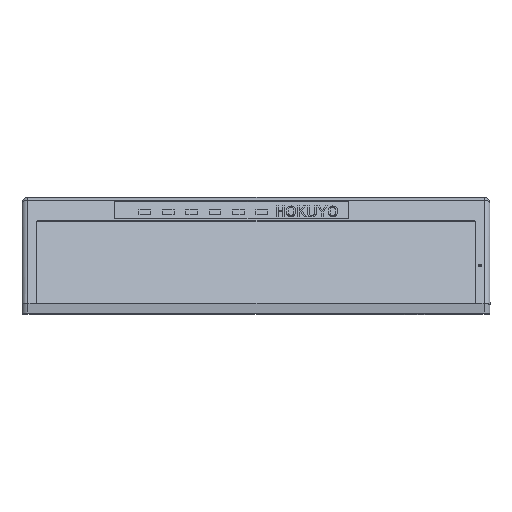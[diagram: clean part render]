
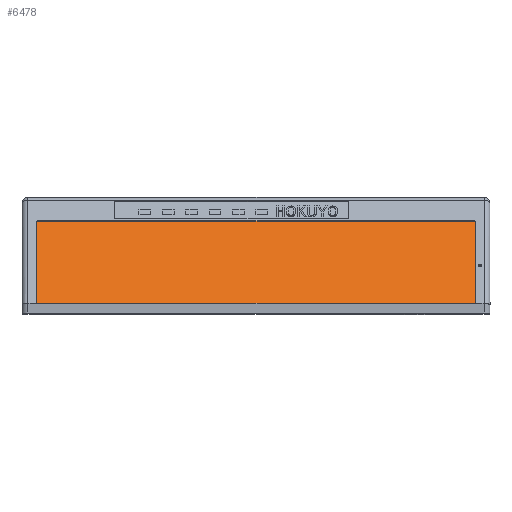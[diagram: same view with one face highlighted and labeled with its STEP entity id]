
A CAD part, top view. The second image highlights one B-rep face of the part: STEP entity #6478.
In plain terms, the highlighted planar face has unit normal (0, 0.5, 0.866).
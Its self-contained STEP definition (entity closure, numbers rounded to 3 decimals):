
#313 = CARTESIAN_POINT ( 'NONE',  ( 37.5, 15.743, 31.863 ) ) ;
#724 = CARTESIAN_POINT ( 'NONE',  ( 37.3, 1.973, 39.813 ) ) ;
#1880 = DIRECTION ( 'NONE',  ( 1., 0., 0. ) ) ;
#2249 = CARTESIAN_POINT ( 'NONE',  ( -37.3, 1.8, 39.913 ) ) ;
#2458 = DIRECTION ( 'NONE',  ( 0., 0.5, 0.866 ) ) ;
#2619 = AXIS2_PLACEMENT_3D ( 'NONE', #29397, #16883, #26687 ) ;
#4171 = DIRECTION ( 'NONE',  ( 0., -0.866, 0.5 ) ) ;
#5381 = CARTESIAN_POINT ( 'NONE',  ( 37.3, 1.8, 39.913 ) ) ;
#5697 = EDGE_CURVE ( 'NONE', #28206, #11695, #13425, .T. ) ;
#6099 = DIRECTION ( 'NONE',  ( 1., 0., 0. ) ) ;
#6478 = ADVANCED_FACE ( 'NONE', ( #29253 ), #12549, .T. ) ;
#6565 = LINE ( 'NONE', #28511, #22481 ) ;
#6954 = EDGE_CURVE ( 'NONE', #11695, #14221, #6565, .T. ) ;
#7120 = CIRCLE ( 'NONE', #11213, 0.2 ) ;
#7998 = DIRECTION ( 'NONE',  ( 0., 0.866, -0.5 ) ) ;
#8019 = LINE ( 'NONE', #17763, #9466 ) ;
#8708 = CARTESIAN_POINT ( 'NONE',  ( 37.3, 15.916, 31.763 ) ) ;
#8756 = VERTEX_POINT ( 'NONE', #2249 ) ;
#9466 = VECTOR ( 'NONE', #27560, 1000. ) ;
#10139 = EDGE_LOOP ( 'NONE', ( #11477, #30559, #24136, #15371, #15219, #21168, #23757, #25622 ) ) ;
#10175 = EDGE_CURVE ( 'NONE', #14221, #8756, #16409, .T. ) ;
#11213 = AXIS2_PLACEMENT_3D ( 'NONE', #24356, #26934, #20019 ) ;
#11477 = ORIENTED_EDGE ( 'NONE', *, *, #29126, .T. ) ;
#11695 = VERTEX_POINT ( 'NONE', #19225 ) ;
#12549 = PLANE ( 'NONE',  #2619 ) ;
#13048 = DIRECTION ( 'NONE',  ( 0., 0.5, 0.866 ) ) ;
#13201 = DIRECTION ( 'NONE',  ( 1., 0., 0. ) ) ;
#13217 = VERTEX_POINT ( 'NONE', #313 ) ;
#13320 = VECTOR ( 'NONE', #7998, 1000. ) ;
#13425 = CIRCLE ( 'NONE', #28271, 0.2 ) ;
#14074 = EDGE_CURVE ( 'NONE', #13217, #29654, #7120, .T. ) ;
#14221 = VERTEX_POINT ( 'NONE', #17940 ) ;
#15219 = ORIENTED_EDGE ( 'NONE', *, *, #22017, .T. ) ;
#15371 = ORIENTED_EDGE ( 'NONE', *, *, #10175, .T. ) ;
#15821 = CARTESIAN_POINT ( 'NONE',  ( -37.3, 1.973, 39.813 ) ) ;
#16409 = CIRCLE ( 'NONE', #19492, 0.2 ) ;
#16627 = LINE ( 'NONE', #21607, #24122 ) ;
#16883 = DIRECTION ( 'NONE',  ( 0., 0.5, 0.866 ) ) ;
#17763 = CARTESIAN_POINT ( 'NONE',  ( -37.5, 1.8, 39.913 ) ) ;
#17940 = CARTESIAN_POINT ( 'NONE',  ( -37.5, 1.973, 39.813 ) ) ;
#19225 = CARTESIAN_POINT ( 'NONE',  ( -37.5, 15.743, 31.863 ) ) ;
#19492 = AXIS2_PLACEMENT_3D ( 'NONE', #15821, #20155, #1880 ) ;
#20019 = DIRECTION ( 'NONE',  ( 1., 0., 0. ) ) ;
#20149 = LINE ( 'NONE', #29941, #13320 ) ;
#20155 = DIRECTION ( 'NONE',  ( 0., 0.5, 0.866 ) ) ;
#21168 = ORIENTED_EDGE ( 'NONE', *, *, #23766, .T. ) ;
#21607 = CARTESIAN_POINT ( 'NONE',  ( -37.5, 15.916, 31.763 ) ) ;
#22017 = EDGE_CURVE ( 'NONE', #8756, #29878, #8019, .T. ) ;
#22481 = VECTOR ( 'NONE', #4171, 1000. ) ;
#23474 = CIRCLE ( 'NONE', #31684, 0.2 ) ;
#23757 = ORIENTED_EDGE ( 'NONE', *, *, #25971, .T. ) ;
#23766 = EDGE_CURVE ( 'NONE', #29878, #31131, #23474, .T. ) ;
#23962 = CARTESIAN_POINT ( 'NONE',  ( -37.3, 15.916, 31.763 ) ) ;
#24122 = VECTOR ( 'NONE', #31558, 1000. ) ;
#24136 = ORIENTED_EDGE ( 'NONE', *, *, #6954, .T. ) ;
#24356 = CARTESIAN_POINT ( 'NONE',  ( 37.3, 15.743, 31.863 ) ) ;
#24402 = CARTESIAN_POINT ( 'NONE',  ( -37.3, 15.743, 31.863 ) ) ;
#24714 = CARTESIAN_POINT ( 'NONE',  ( 37.5, 1.973, 39.813 ) ) ;
#25622 = ORIENTED_EDGE ( 'NONE', *, *, #14074, .T. ) ;
#25971 = EDGE_CURVE ( 'NONE', #31131, #13217, #20149, .T. ) ;
#26687 = DIRECTION ( 'NONE',  ( 1., 0., 0. ) ) ;
#26934 = DIRECTION ( 'NONE',  ( 0., 0.5, 0.866 ) ) ;
#27560 = DIRECTION ( 'NONE',  ( 1., 0., 0. ) ) ;
#28206 = VERTEX_POINT ( 'NONE', #23962 ) ;
#28271 = AXIS2_PLACEMENT_3D ( 'NONE', #24402, #2458, #6099 ) ;
#28511 = CARTESIAN_POINT ( 'NONE',  ( -37.5, 15.916, 31.763 ) ) ;
#29126 = EDGE_CURVE ( 'NONE', #29654, #28206, #16627, .T. ) ;
#29253 = FACE_OUTER_BOUND ( 'NONE', #10139, .T. ) ;
#29397 = CARTESIAN_POINT ( 'NONE',  ( 0., 8.858, 35.838 ) ) ;
#29654 = VERTEX_POINT ( 'NONE', #8708 ) ;
#29878 = VERTEX_POINT ( 'NONE', #5381 ) ;
#29941 = CARTESIAN_POINT ( 'NONE',  ( 37.5, 15.916, 31.763 ) ) ;
#30559 = ORIENTED_EDGE ( 'NONE', *, *, #5697, .T. ) ;
#31131 = VERTEX_POINT ( 'NONE', #24714 ) ;
#31558 = DIRECTION ( 'NONE',  ( -1., 0., 0. ) ) ;
#31684 = AXIS2_PLACEMENT_3D ( 'NONE', #724, #13048, #13201 ) ;
